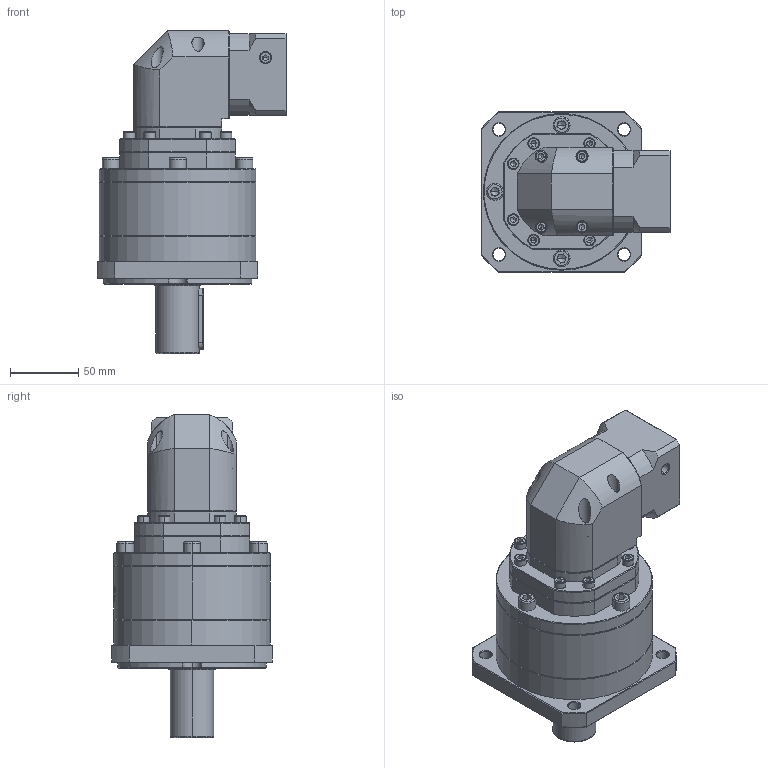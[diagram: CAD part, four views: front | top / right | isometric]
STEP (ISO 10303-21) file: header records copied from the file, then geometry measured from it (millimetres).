
FILE_DESCRIPTION (( 'STEP AP214' ), '1' );
FILE_NAME ('ZFR120A-D32-L3-P2-14-50-70-M5.step', '2023-08-27T09:49:49', ( '' ), ( '' ), 'SwSTEP 2.0', 'SolidWorks 2016', '' );
FILE_SCHEMA (( 'AUTOMOTIVE_DESIGN' ));
Length unit declared in the file: millimetre
Products named in the file (1): ZFR120A-D32-L3-P2-14-50-70-M5
Bounding box: 139.2 x 118 x 237.5 mm (x, y, z)
Volume: 1482291.7 mm3; surface area: 140623.7 mm2
Topology: 6 solids, 6 shells, 2435 faces, 6460 edges, 4141 vertices
Faces by surface type: plane 1172, cylinder 462, bspline 447, cone 346, torus 8
Entity records: 129831 total; most frequent: CARTESIAN_POINT 48080, ORIENTED_EDGE 12812, DIRECTION 9567, EDGE_CURVE 6406, VERTEX_POINT 4141, VECTOR 3419, LINE 3419, AXIS2_PLACEMENT_3D 3074
